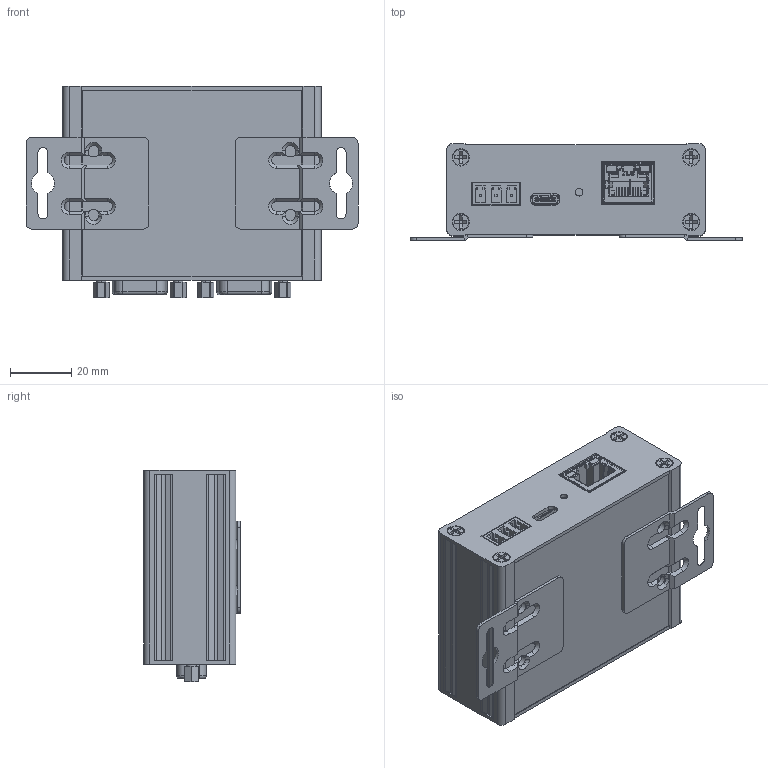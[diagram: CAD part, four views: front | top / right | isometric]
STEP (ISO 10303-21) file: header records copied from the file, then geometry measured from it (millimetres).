
FILE_DESCRIPTION((''),'2;1');
FILE_NAME('00-PX-6450-A_SW0003','2023-06-29T13:33:07',('hepeizong'),(''),'CREO PARAMETRIC BY PTC INC, 2021404','CREO PARAMETRIC BY PTC INC, 2021404','');
FILE_SCHEMA(('CONFIG_CONTROL_DESIGN'));
Products named in the file (1): 00-PX-6450-A_SW0003
Bounding box: 108 x 31.4 x 68.7 mm (x, y, z)
Volume: 49531.3 mm3; surface area: 54352.5 mm2
Topology: 6 solids, 6 shells, 2338 faces, 6387 edges, 4051 vertices
Faces by surface type: plane 1511, cylinder 599, cone 110, bspline 86, sphere 20, torus 12
Entity records: 81093 total; most frequent: CARTESIAN_POINT 22424, ORIENTED_EDGE 12734, DIRECTION 11383, EDGE_CURVE 6367, VECTOR 4583, LINE 4583, VERTEX_POINT 4051, AXIS2_PLACEMENT_3D 3400
